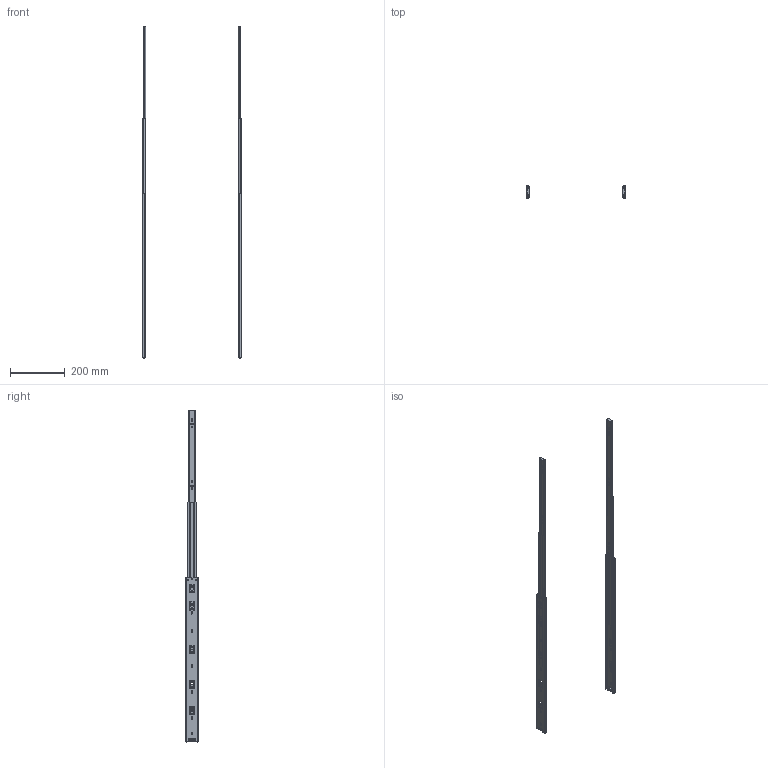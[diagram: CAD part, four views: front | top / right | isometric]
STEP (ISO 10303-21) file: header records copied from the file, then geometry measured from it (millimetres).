
FILE_DESCRIPTION(/* description */ (''),/* implementation_level */ '2;1');
FILE_NAME(/* name */ 'D:\$Workingspace\Designs\Katalog\Cadsoft\GTV Prowadnice\Prowadnice GTV_bryły 3D\PK-0H45600GX1_wysunieta.stp',/* time_stamp */ '2016-11-22T12:19:49+01:00',/* author */ ('tomaszw'),/* organization */ (''),/* preprocessor_version */ 'ST-DEVELOPER v16.1',/* originating_system */ 'Autodesk Inventor 2016',/* authorisation */ '');
FILE_SCHEMA (('AUTOMOTIVE_DESIGN { 1 0 10303 214 3 1 1 }'));
Length unit declared in the file: millimetre
Products named in the file (5): Blokada_5; PK-0H45_1-600-GX1; PK-0H45_2-600-GX1; PK-0H45_3-600-GX1; PK-0H45-_-GX1
Assembly tree (8 placements, depth 2):
  PK-0H45-_-GX1
    Blokada_5  x2
    PK-0H45_1-600-GX1  x2
    PK-0H45_2-600-GX1  x2
    PK-0H45_3-600-GX1  x2
Bounding box: 364 x 43.8 x 1210 mm (x, y, z)
Volume: 176374.3 mm3; surface area: 360458.3 mm2
Topology: 8 solids, 8 shells, 560 faces, 1624 edges, 1080 vertices
Faces by surface type: cylinder 284, plane 272, cone 4
Full cylindrical faces by diameter (mm): 4.5 x6, 5 x2, 6 x10, 7 x4
Entity records: 9830 total; most frequent: DIRECTION 1661, CARTESIAN_POINT 1660, ORIENTED_EDGE 1602, EDGE_CURVE 801, AXIS2_PLACEMENT_3D 575, VERTEX_POINT 540, LINE 511, VECTOR 511
